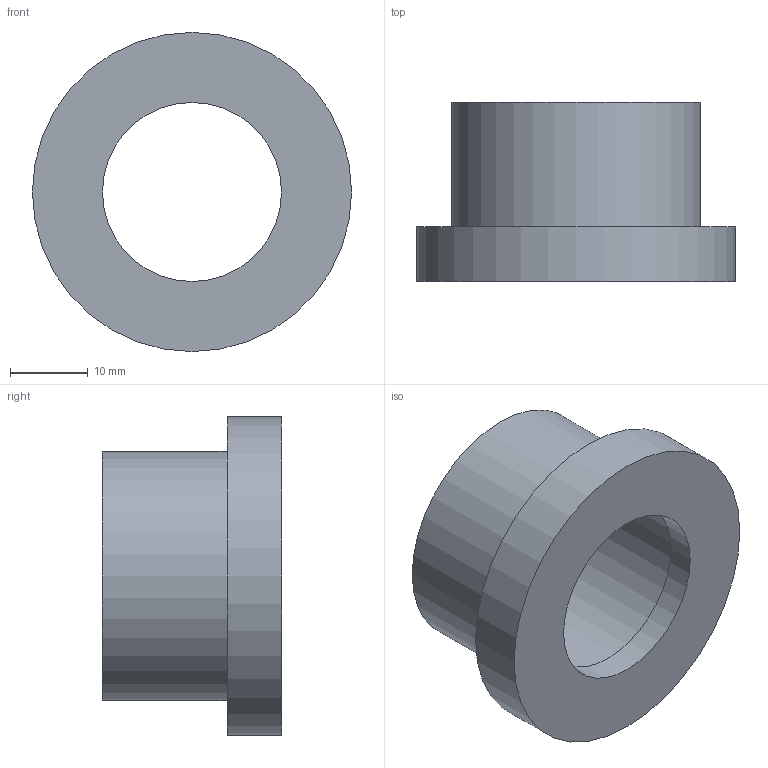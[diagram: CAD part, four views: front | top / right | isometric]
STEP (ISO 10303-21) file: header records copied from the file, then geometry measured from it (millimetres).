
FILE_DESCRIPTION(/* description */ ('PVC collare rigato incollaggio metrico'),/* implementation_level */ '2;1');
FILE_NAME(/* name */ 'C:\Users\POLYPIPE\Desktop\DATASET INVENTOR\LIBRERIA EFFAST\RACCORDI 3DxWEB\RDR\3D_RDRQRD\3D_RDRQRD0250.stp',/* time_stamp */ '2018-01-19T15:25:09+01:00',/* author */ ('POLYPIPE'),/* organization */ ('Polypipe Italia s.r.l.'),/* preprocessor_version */ 'ST-DEVELOPER v16.1',/* originating_system */ 'Autodesk Inventor 2016',/* authorisation */ '');
FILE_SCHEMA (('CONFIG_CONTROL_DESIGN'));
Length unit declared in the file: millimetre
Products named in the file (1): 3D_RDRQRD
Bounding box: 41 x 23 x 41 mm (x, y, z)
Volume: 11083.5 mm3; surface area: 6104.1 mm2
Topology: 1 solids, 1 shells, 8 faces, 12 edges, 8 vertices
Faces by surface type: plane 4, cylinder 4
Full cylindrical faces by diameter (mm): 23 x1, 25 x1, 32 x1, 41 x1
Entity records: 192 total; most frequent: DIRECTION 34, CARTESIAN_POINT 25, AXIS2_PLACEMENT_3D 17, EDGE_LOOP 16, ORIENTED_EDGE 16, FACE_BOUND 8, FACE_OUTER_BOUND 8, CIRCLE 8
